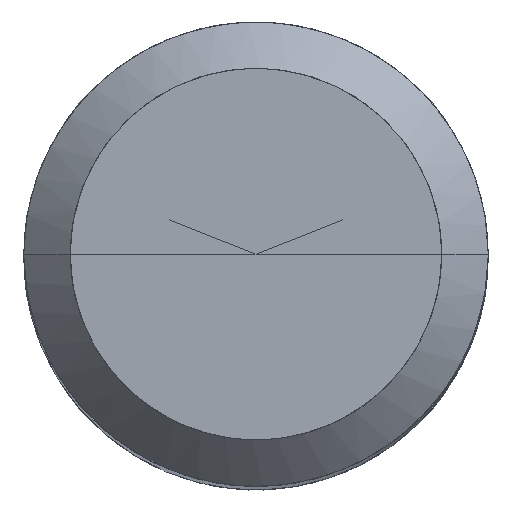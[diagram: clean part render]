
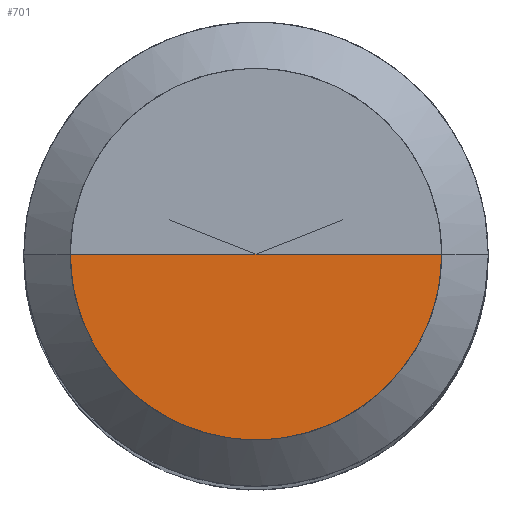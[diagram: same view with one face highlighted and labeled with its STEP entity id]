
A CAD part, top view. The second image highlights one B-rep face of the part: STEP entity #701.
In plain terms, the highlighted free-form (B-spline) face has degree [1, 2] with [2, 5] control points.
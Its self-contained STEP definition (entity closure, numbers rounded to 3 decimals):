
#433=CARTESIAN_POINT('',(6.4,0.0,60.0));
#437=CARTESIAN_POINT('',(-6.4,0.0,60.0));
#438=CARTESIAN_POINT('',(0.0,0.0,60.0));
#442=CARTESIAN_POINT('',(-6.4,-6.4,60.0));
#443=CARTESIAN_POINT('',(0.0,-6.4,60.0));
#444=CARTESIAN_POINT('',(6.4,-6.4,60.0));
#686=(
BOUNDED_SURFACE()
B_SPLINE_SURFACE(1,2,(
(#437,#442,#443,#444,#433),
(#438,#438,#438,#438,#438)
), .UNSPECIFIED.,.F.,.F.,.F.)
B_SPLINE_SURFACE_WITH_KNOTS((2,2),(3,2,3),(
0.0,1.0),(
0.0,0.5,1.0), .UNSPECIFIED.)
GEOMETRIC_REPRESENTATION_ITEM()
RATIONAL_B_SPLINE_SURFACE(((1.0,0.707,1.0,0.707,1.0),
(1.0,0.707,1.0,0.707,1.0)
))
REPRESENTATION_ITEM('')
SURFACE()
);
#687=(
BOUNDED_CURVE()
B_SPLINE_CURVE(2,(#433,#444,#443,#442,#437),.UNSPECIFIED.,.F.,.F.)
B_SPLINE_CURVE_WITH_KNOTS((3,2,3),
(0.0,0.5,1.0),.UNSPECIFIED.)
CURVE()
GEOMETRIC_REPRESENTATION_ITEM()
RATIONAL_B_SPLINE_CURVE((1.0,0.707,1.0,0.707,1.0))
REPRESENTATION_ITEM('')
);
#688=(
BOUNDED_CURVE()
B_SPLINE_CURVE(1,(#437,#438),.UNSPECIFIED.,.F.,.F.)
B_SPLINE_CURVE_WITH_KNOTS((2,2),
(0.0,1.0),.UNSPECIFIED.)
CURVE()
GEOMETRIC_REPRESENTATION_ITEM()
RATIONAL_B_SPLINE_CURVE((1.0,1.0))
REPRESENTATION_ITEM('')
);
#689=(
BOUNDED_CURVE()
B_SPLINE_CURVE(1,(#438,#433),.UNSPECIFIED.,.F.,.F.)
B_SPLINE_CURVE_WITH_KNOTS((2,2),
(0.0,1.0),.UNSPECIFIED.)
CURVE()
GEOMETRIC_REPRESENTATION_ITEM()
RATIONAL_B_SPLINE_CURVE((1.0,1.0))
REPRESENTATION_ITEM('')
);
#690=VERTEX_POINT('',#433);
#691=VERTEX_POINT('',#437);
#692=VERTEX_POINT('',#438);
#693=EDGE_CURVE('',#690,#691,#687,.T.);
#694=EDGE_CURVE('',#691,#692,#688,.T.);
#695=EDGE_CURVE('',#692,#690,#689,.T.);
#696=ORIENTED_EDGE('',*,*,#693,.T.);
#697=ORIENTED_EDGE('',*,*,#694,.T.);
#698=ORIENTED_EDGE('',*,*,#695,.T.);
#699=EDGE_LOOP('',(#696,#697,#698));
#700=FACE_OUTER_BOUND('',#699,.T.);
#701=ADVANCED_FACE('',(#700),#686,.T.);
